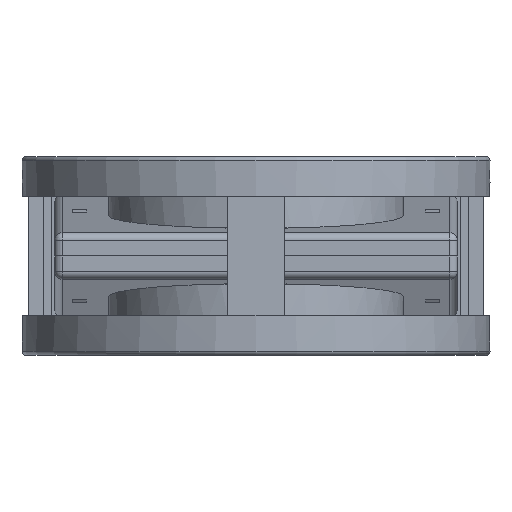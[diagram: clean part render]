
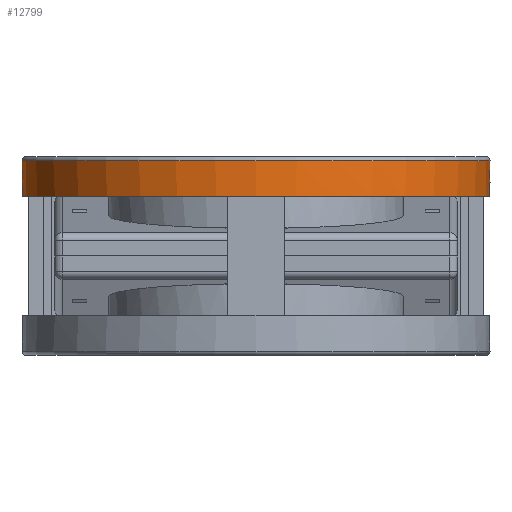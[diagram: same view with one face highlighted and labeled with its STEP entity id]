
A CAD part, front view. The second image highlights one B-rep face of the part: STEP entity #12799.
In plain terms, the highlighted cylindrical face has radius 82.4 mm (diameter 164.8 mm), a full revolution.
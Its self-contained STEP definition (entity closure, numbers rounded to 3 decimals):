
#2300=CIRCLE('',#33249,82.4);
#2301=CIRCLE('',#33250,82.4);
#2302=CIRCLE('',#33251,82.4);
#2303=CIRCLE('',#33253,82.4);
#12799=ADVANCED_FACE('',(#14464,#14465,#14466,#14467),#14003,.T.);
#14003=CYLINDRICAL_SURFACE('',#33256,82.4);
#14464=FACE_BOUND('',#15522,.T.);
#14465=FACE_BOUND('',#15523,.T.);
#14466=FACE_BOUND('',#15524,.T.);
#14467=FACE_BOUND('',#15525,.T.);
#15522=EDGE_LOOP('',(#19920,#19921,#19922));
#15523=EDGE_LOOP('',(#19923));
#15524=EDGE_LOOP('',(#19924,#19925));
#15525=EDGE_LOOP('',(#19926,#19927,#19928));
#19920=ORIENTED_EDGE('',*,*,#29751,.T.);
#19921=ORIENTED_EDGE('',*,*,#29752,.T.);
#19922=ORIENTED_EDGE('',*,*,#29753,.T.);
#19923=ORIENTED_EDGE('',*,*,#29754,.T.);
#19924=ORIENTED_EDGE('',*,*,#29755,.F.);
#19925=ORIENTED_EDGE('',*,*,#29756,.T.);
#19926=ORIENTED_EDGE('',*,*,#29757,.T.);
#19927=ORIENTED_EDGE('',*,*,#29758,.T.);
#19928=ORIENTED_EDGE('',*,*,#29759,.T.);
#26416=VERTEX_POINT('',#47264);
#26417=VERTEX_POINT('',#47265);
#26418=VERTEX_POINT('',#47267);
#26419=VERTEX_POINT('',#47270);
#26420=VERTEX_POINT('',#47272);
#26421=VERTEX_POINT('',#47273);
#26422=VERTEX_POINT('',#47276);
#26423=VERTEX_POINT('',#47277);
#26424=VERTEX_POINT('',#47279);
#29751=EDGE_CURVE('',#26416,#26417,#32505,.T.);
#29752=EDGE_CURVE('',#26417,#26418,#32506,.T.);
#29753=EDGE_CURVE('',#26418,#26416,#2300,.T.);
#29754=EDGE_CURVE('',#26419,#26419,#2301,.T.);
#29755=EDGE_CURVE('',#26420,#26421,#2302,.T.);
#29756=EDGE_CURVE('',#26420,#26421,#32507,.T.);
#29757=EDGE_CURVE('',#26422,#26423,#2303,.T.);
#29758=EDGE_CURVE('',#26423,#26424,#32508,.T.);
#29759=EDGE_CURVE('',#26424,#26422,#32509,.T.);
#32505=ELLIPSE('',#33247,164.8,82.4);
#32506=ELLIPSE('',#33248,164.8,82.4);
#32507=ELLIPSE('',#33252,82.715,82.4);
#32508=ELLIPSE('',#33254,164.8,82.4);
#32509=ELLIPSE('',#33255,164.8,82.4);
#33247=AXIS2_PLACEMENT_3D('',#47263,#37954,#37955);
#33248=AXIS2_PLACEMENT_3D('',#47266,#37956,#37957);
#33249=AXIS2_PLACEMENT_3D('',#47268,#37958,#37959);
#33250=AXIS2_PLACEMENT_3D('',#47269,#37960,#37961);
#33251=AXIS2_PLACEMENT_3D('',#47271,#37962,#37963);
#33252=AXIS2_PLACEMENT_3D('',#47274,#37964,#37965);
#33253=AXIS2_PLACEMENT_3D('',#47275,#37966,#37967);
#33254=AXIS2_PLACEMENT_3D('',#47278,#37968,#37969);
#33255=AXIS2_PLACEMENT_3D('',#47280,#37970,#37971);
#33256=AXIS2_PLACEMENT_3D('',#47281,#37972,#37973);
#37954=DIRECTION('',(0.5,0.866,0.));
#37955=DIRECTION('',(0.866,-0.5,0.));
#37956=DIRECTION('',(0.5,-0.866,0.));
#37957=DIRECTION('',(0.866,0.5,0.));
#37958=DIRECTION('',(-1.,0.,0.));
#37959=DIRECTION('',(0.,0.,-1.));
#37960=DIRECTION('',(1.,0.,0.));
#37961=DIRECTION('',(0.,1.,0.));
#37962=DIRECTION('',(1.,0.,0.));
#37963=DIRECTION('',(0.,1.,0.));
#37964=DIRECTION('',(-0.996,-0.087,0.));
#37965=DIRECTION('',(0.087,-0.996,0.));
#37966=DIRECTION('',(-1.,0.,0.));
#37967=DIRECTION('',(0.,0.,-1.));
#37968=DIRECTION('',(0.5,-0.866,0.));
#37969=DIRECTION('',(0.866,0.5,0.));
#37970=DIRECTION('',(0.5,0.866,0.));
#37971=DIRECTION('',(0.866,-0.5,0.));
#37972=DIRECTION('',(1.,0.,0.));
#37973=DIRECTION('',(0.,1.,0.));
#47263=CARTESIAN_POINT('',(-26.,0.,0.));
#47264=CARTESIAN_POINT('',(-30.,2.309,82.368));
#47265=CARTESIAN_POINT('',(-26.,0.,82.4));
#47266=CARTESIAN_POINT('',(-26.,0.,0.));
#47267=CARTESIAN_POINT('',(-30.,-2.309,82.368));
#47268=CARTESIAN_POINT('',(-30.,0.,0.));
#47269=CARTESIAN_POINT('',(-33.5,0.,0.));
#47270=CARTESIAN_POINT('',(-33.5,82.4,0.));
#47271=CARTESIAN_POINT('',(-21.,0.,0.));
#47272=CARTESIAN_POINT('',(-21.,76.47,30.692));
#47273=CARTESIAN_POINT('',(-21.,76.47,-30.692));
#47274=CARTESIAN_POINT('',(-14.31,0.,0.));
#47275=CARTESIAN_POINT('',(-30.,0.,0.));
#47276=CARTESIAN_POINT('',(-30.,2.309,-82.368));
#47277=CARTESIAN_POINT('',(-30.,-2.309,-82.368));
#47278=CARTESIAN_POINT('',(-26.,0.,0.));
#47279=CARTESIAN_POINT('',(-26.,0.,-82.4));
#47280=CARTESIAN_POINT('',(-26.,0.,0.));
#47281=CARTESIAN_POINT('',(-13.6,0.,0.));
